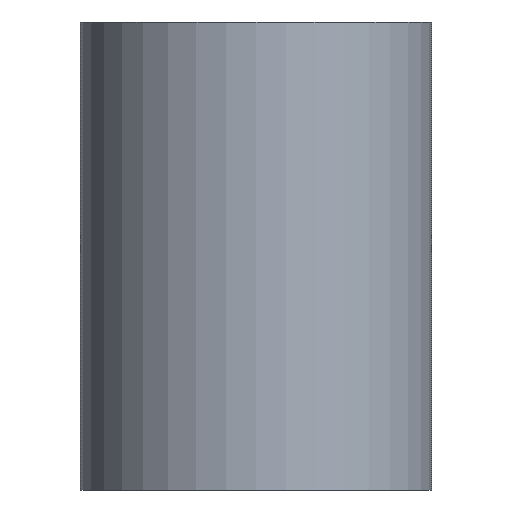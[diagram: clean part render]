
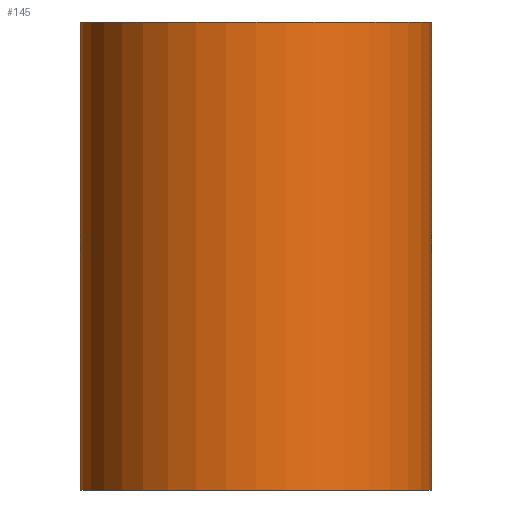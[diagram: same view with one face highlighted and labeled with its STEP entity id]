
A CAD part, front view. The second image highlights one B-rep face of the part: STEP entity #145.
In plain terms, the highlighted cylindrical face has radius 37.5 mm (diameter 75 mm), a full revolution.
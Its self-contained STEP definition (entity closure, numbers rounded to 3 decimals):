
#32=LINE('',#318,#36);
#36=VECTOR('',#269,37.5);
#40=CYLINDRICAL_SURFACE('',#229,37.5);
#49=FACE_OUTER_BOUND('',#58,.T.);
#58=EDGE_LOOP('',(#114,#115,#116,#117,#118,#119));
#67=CIRCLE('',#224,37.5);
#68=CIRCLE('',#225,37.5);
#71=CIRCLE('',#230,37.5);
#72=CIRCLE('',#231,37.5);
#79=VERTEX_POINT('',#303);
#80=VERTEX_POINT('',#304);
#83=VERTEX_POINT('',#314);
#84=VERTEX_POINT('',#315);
#91=EDGE_CURVE('',#79,#80,#67,.T.);
#92=EDGE_CURVE('',#80,#79,#68,.T.);
#96=EDGE_CURVE('',#83,#84,#71,.T.);
#97=EDGE_CURVE('',#84,#83,#72,.T.);
#98=EDGE_CURVE('',#84,#80,#32,.T.);
#114=ORIENTED_EDGE('',*,*,#96,.F.);
#115=ORIENTED_EDGE('',*,*,#97,.F.);
#116=ORIENTED_EDGE('',*,*,#98,.T.);
#117=ORIENTED_EDGE('',*,*,#91,.F.);
#118=ORIENTED_EDGE('',*,*,#92,.F.);
#119=ORIENTED_EDGE('',*,*,#98,.F.);
#145=ADVANCED_FACE('',(#49),#40,.T.);
#224=AXIS2_PLACEMENT_3D('',#305,#252,#253);
#225=AXIS2_PLACEMENT_3D('',#306,#254,#255);
#229=AXIS2_PLACEMENT_3D('',#313,#263,#264);
#230=AXIS2_PLACEMENT_3D('',#316,#265,#266);
#231=AXIS2_PLACEMENT_3D('',#317,#267,#268);
#252=DIRECTION('center_axis',(0.,0.,-1.));
#253=DIRECTION('ref_axis',(1.,0.,0.));
#254=DIRECTION('center_axis',(0.,0.,-1.));
#255=DIRECTION('ref_axis',(1.,0.,0.));
#263=DIRECTION('center_axis',(0.,0.,1.));
#264=DIRECTION('ref_axis',(1.,0.,0.));
#265=DIRECTION('center_axis',(0.,0.,1.));
#266=DIRECTION('ref_axis',(1.,0.,0.));
#267=DIRECTION('center_axis',(0.,0.,1.));
#268=DIRECTION('ref_axis',(1.,0.,0.));
#269=DIRECTION('',(0.,0.,-1.));
#303=CARTESIAN_POINT('',(37.5,0.,-50.));
#304=CARTESIAN_POINT('',(-37.5,0.,-50.));
#305=CARTESIAN_POINT('Origin',(0.,0.,-50.));
#306=CARTESIAN_POINT('Origin',(0.,0.,-50.));
#313=CARTESIAN_POINT('Origin',(0.,0.,0.));
#314=CARTESIAN_POINT('',(37.5,0.,50.));
#315=CARTESIAN_POINT('',(-37.5,0.,50.));
#316=CARTESIAN_POINT('Origin',(0.,0.,50.));
#317=CARTESIAN_POINT('Origin',(0.,0.,50.));
#318=CARTESIAN_POINT('',(-37.5,0.,0.));
